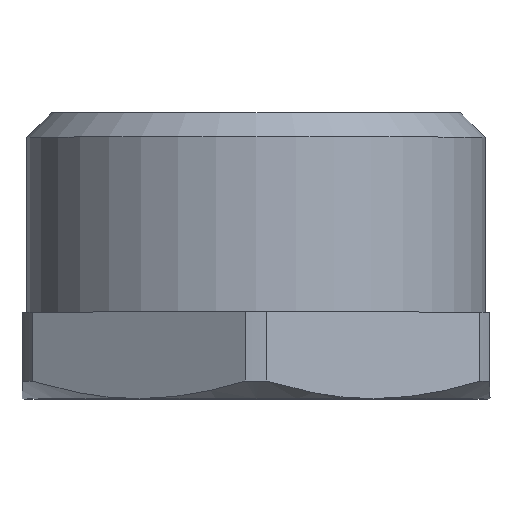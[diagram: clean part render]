
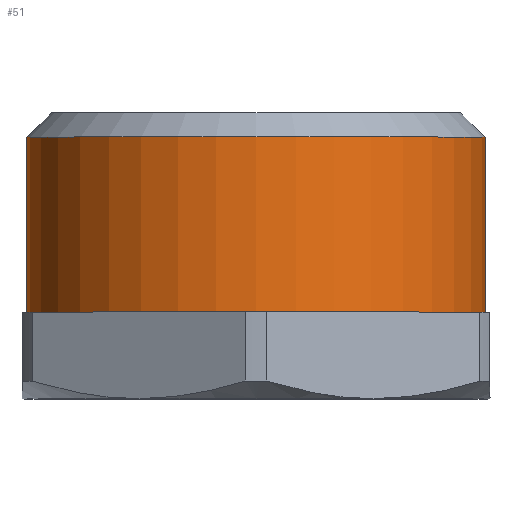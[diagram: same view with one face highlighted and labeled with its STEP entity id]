
A CAD part, top view. The second image highlights one B-rep face of the part: STEP entity #51.
In plain terms, the highlighted cylindrical face has radius 13.22 mm (diameter 26.441 mm), a full revolution.
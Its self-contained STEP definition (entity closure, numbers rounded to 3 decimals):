
#51=ADVANCED_FACE('',(#124,#126),#128,.T.);
#124=FACE_OUTER_BOUND('',#125,.T.);
#125=EDGE_LOOP('',(#272));
#126=FACE_OUTER_BOUND('',#127,.T.);
#127=EDGE_LOOP('',(#273));
#128=CYLINDRICAL_SURFACE('',#129,13.221);
#129=AXIS2_PLACEMENT_3D('',#130,#131,#132);
#130=CARTESIAN_POINT('',(0.,0.,0.));
#131=DIRECTION('',(0.,1.,0.));
#132=DIRECTION('',(-1.,0.,0.));
#272=ORIENTED_EDGE('',*,*,#350,.F.);
#273=ORIENTED_EDGE('',*,*,#366,.T.);
#350=EDGE_CURVE('',#407,#407,#408,.T.);
#366=EDGE_CURVE('',#436,#436,#437,.T.);
#407=VERTEX_POINT('',#514);
#408=CIRCLE('',#515,13.221);
#436=VERTEX_POINT('',#844);
#437=CIRCLE('',#845,13.221);
#514=CARTESIAN_POINT('',(-13.221,15.1,0.));
#515=AXIS2_PLACEMENT_3D('',#516,#517,#518);
#516=CARTESIAN_POINT('',(0.,15.1,0.));
#517=DIRECTION('',(0.,1.,0.));
#518=DIRECTION('',(-1.,0.,0.));
#844=CARTESIAN_POINT('',(-13.221,5.,0.));
#845=AXIS2_PLACEMENT_3D('',#846,#847,#848);
#846=CARTESIAN_POINT('',(0.,5.,0.));
#847=DIRECTION('',(0.,1.,0.));
#848=DIRECTION('',(-1.,0.,0.));
